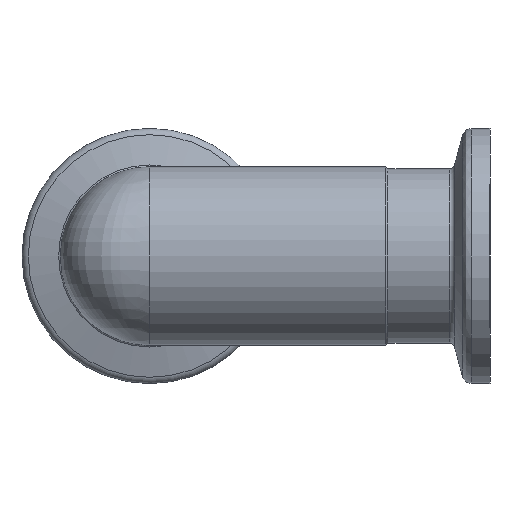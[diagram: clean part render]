
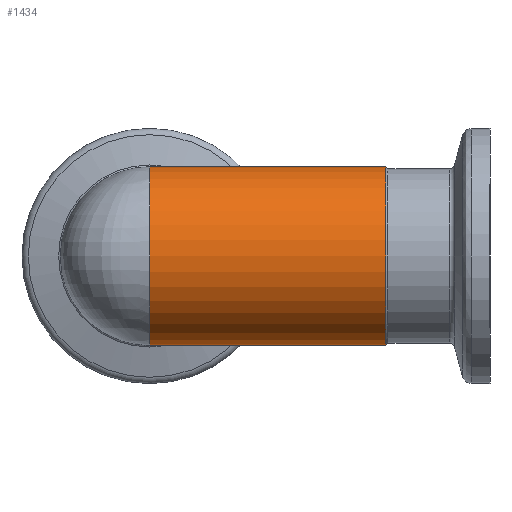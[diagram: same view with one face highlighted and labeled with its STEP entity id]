
A CAD part, left-side view. The second image highlights one B-rep face of the part: STEP entity #1434.
In plain terms, the highlighted cylindrical face has radius 10.5 mm (diameter 21 mm), a full revolution.
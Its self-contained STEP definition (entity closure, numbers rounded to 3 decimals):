
#689=CARTESIAN_POINT('',(-10.5,-27.75,0.));
#690=VERTEX_POINT('',#689);
#691=CARTESIAN_POINT('',(0.,-27.75,0.0));
#692=DIRECTION('',(0.0,1.0,0.0));
#693=DIRECTION('',(1.0,0.0,0.0));
#694=AXIS2_PLACEMENT_3D('',#691,#692,#693);
#695=CIRCLE('',#694,10.5);
#696=EDGE_CURVE('',#690,#690,#695,.T.);
#1386=CARTESIAN_POINT('',(0.,0.,10.5));
#1387=VERTEX_POINT('',#1386);
#1388=CARTESIAN_POINT('',(0.,0.,-10.5));
#1389=VERTEX_POINT('',#1388);
#1390=CARTESIAN_POINT('',(0.0,0.,0.0));
#1391=DIRECTION('',(0.766,0.643,0.));
#1392=DIRECTION('',(0.643,-0.766,0.0));
#1393=AXIS2_PLACEMENT_3D('',#1390,#1391,#1392);
#1394=ELLIPSE('',#1393,16.325,10.5);
#1395=EDGE_CURVE('',#1387,#1389,#1394,.T.);
#1407=CARTESIAN_POINT('',(0.,-17.263,0.0));
#1408=DIRECTION('',(0.,-1.0,0.0));
#1409=DIRECTION('',(1.0,0.0,0.0));
#1410=AXIS2_PLACEMENT_3D('',#1407,#1408,#1409);
#1411=CYLINDRICAL_SURFACE('',#1410,10.5);
#1412=ORIENTED_EDGE('',*,*,#696,.T.);
#1413=EDGE_LOOP('',(#1412));
#1414=FACE_OUTER_BOUND('',#1413,.T.);
#1415=ORIENTED_EDGE('',*,*,#1395,.F.);
#1416=CARTESIAN_POINT('',(-10.5,0.,0.));
#1417=VERTEX_POINT('',#1416);
#1418=CARTESIAN_POINT('',(0.,0.,0.0));
#1419=DIRECTION('',(0.0,-1.0,0.0));
#1420=DIRECTION('',(1.0,0.0,0.0));
#1421=AXIS2_PLACEMENT_3D('',#1418,#1419,#1420);
#1422=CIRCLE('',#1421,10.5);
#1423=EDGE_CURVE('',#1387,#1417,#1422,.T.);
#1424=ORIENTED_EDGE('',*,*,#1423,.T.);
#1425=CARTESIAN_POINT('',(0.,0.,0.0));
#1426=DIRECTION('',(0.0,-1.0,0.0));
#1427=DIRECTION('',(1.0,0.0,0.0));
#1428=AXIS2_PLACEMENT_3D('',#1425,#1426,#1427);
#1429=CIRCLE('',#1428,10.5);
#1430=EDGE_CURVE('',#1417,#1389,#1429,.T.);
#1431=ORIENTED_EDGE('',*,*,#1430,.T.);
#1432=EDGE_LOOP('',(#1415,#1424,#1431));
#1433=FACE_BOUND('',#1432,.T.);
#1434=ADVANCED_FACE('',(#1414,#1433),#1411,.T.);
